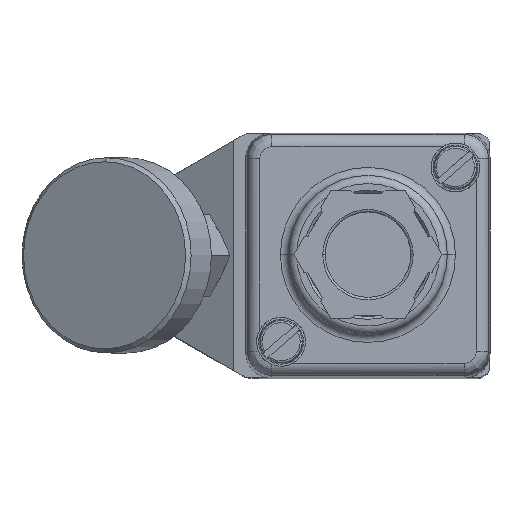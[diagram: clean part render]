
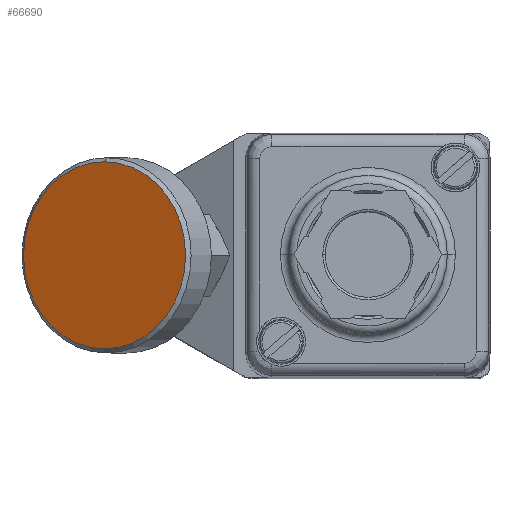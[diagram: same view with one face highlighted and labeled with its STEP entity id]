
A CAD part, top view. The second image highlights one B-rep face of the part: STEP entity #66690.
In plain terms, the highlighted planar face has unit normal (-0.5, 0, 0.866).
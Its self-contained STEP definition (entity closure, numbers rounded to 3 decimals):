
#63530=CARTESIAN_POINT('',(-32.371,11.5,79.612));
#63540=VERTEX_POINT('',#63530);
#63570=CARTESIAN_POINT('',(-32.371,0.,
79.612));
#63580=DIRECTION('',(0.5,0.,-0.866));
#63590=DIRECTION('',(0.,-1.,0.));
#63600=AXIS2_PLACEMENT_3D('',#63570,#63580,#63590);
#63610=CIRCLE('',#63600,11.5);
#63620=CARTESIAN_POINT('',(-32.371,-11.5,79.612));
#63630=VERTEX_POINT('',#63620);
#63640=EDGE_CURVE('',#63630,#63540,#63610,.T.);
#66590=CARTESIAN_POINT('',(-32.371,6.,79.612));
#66600=DIRECTION('',(-0.5,0.,0.866));
#66610=DIRECTION('',(0.,1.,0.));
#66620=AXIS2_PLACEMENT_3D('',#66590,#66600,#66610);
#66630=PLANE('',#66620);
#66640=ORIENTED_EDGE('',*,*,#63640,.F.);
#66650=EDGE_CURVE('',#63540,#63630,#63610,.T.);
#66660=ORIENTED_EDGE('',*,*,#66650,.F.);
#66670=EDGE_LOOP('',(#66660,#66640));
#66680=FACE_OUTER_BOUND('',#66670,.T.);
#66690=ADVANCED_FACE('',(#66680),#66630,.T.);
